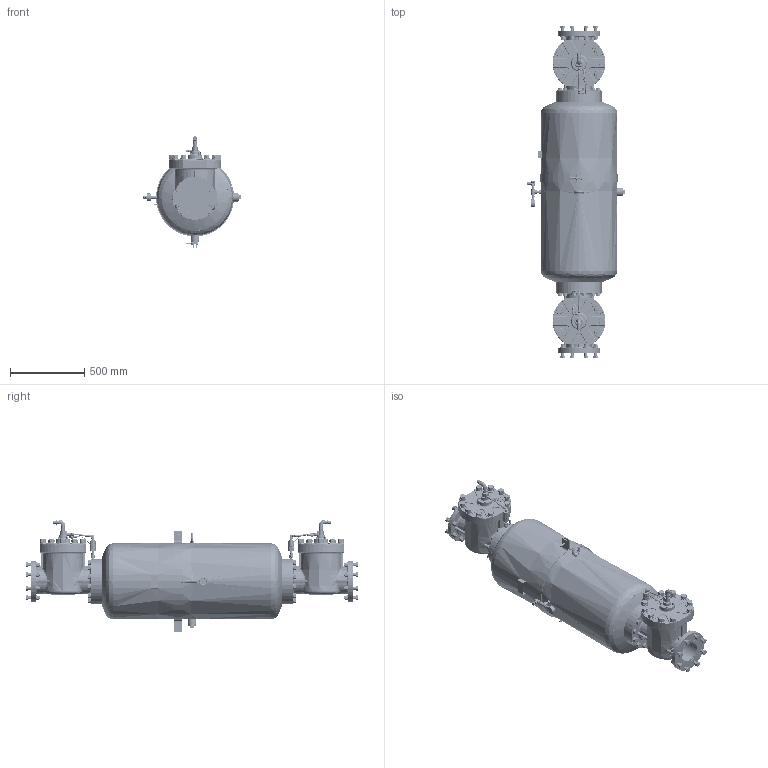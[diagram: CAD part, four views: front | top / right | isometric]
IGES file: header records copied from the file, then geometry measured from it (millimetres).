
Start section: SolidWorks IGES file using analytic representation for surfaces
Global section: file name: V:\WORK\08133\HP Defeature\blaster\EDB6-230TA\IGS_STEP僼傽僀儖\EDB6-230TA.IGS; native system: SolidWorks 2022; preprocessor: SolidWorks 2022; author: n-udagawa; date: 250409.143004; units: millimetre
Bounding box: 664.5 x 2230.8 x 752 mm (x, y, z)
Surface area: 4233040.8 mm2 (no closed solid volume)
Topology: 0 solids, 0 shells, 4724 faces, 69114 edges, 69065 vertices
Faces by surface type: bspline 2552, revolution 2172
